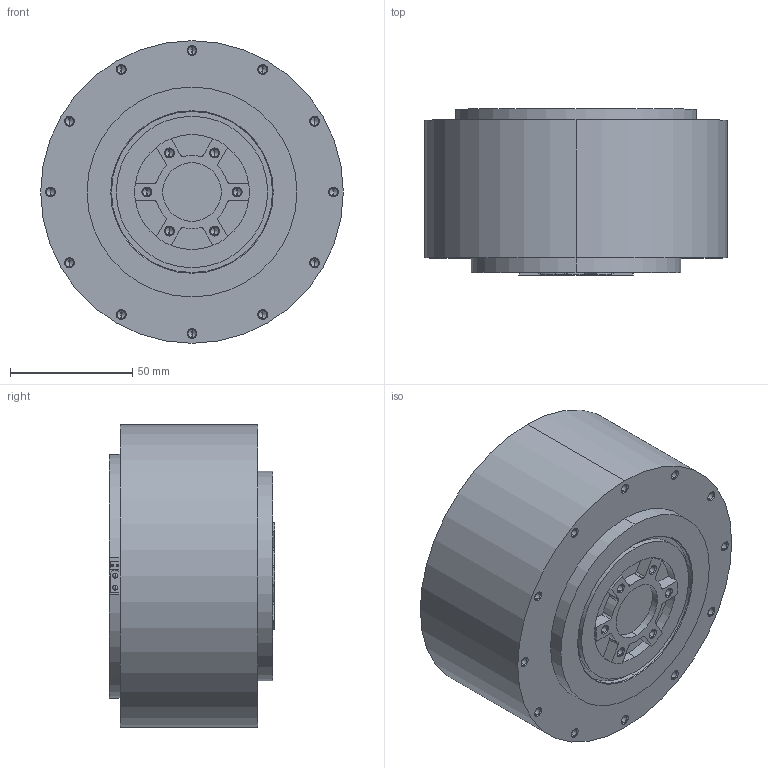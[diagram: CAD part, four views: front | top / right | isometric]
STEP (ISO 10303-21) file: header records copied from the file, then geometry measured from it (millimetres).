
FILE_DESCRIPTION (( 'STEP AP203' ), '1' );
FILE_NAME ('RMBOT124-25-P1-200Nm-2PC(总68-输入100).STEP', '2025-06-18T07:52:08', ( 'China' ), ( 'Microsoft' ), 'SwSTEP 2.0', 'SolidWorks 2022', '' );
FILE_SCHEMA (( 'CONFIG_CONTROL_DESIGN' ));
Length unit declared in the file: millimetre
Products named in the file (1): RMBOT124-25-P1-200Nm-2PC(总68-输入100)
Bounding box: 124 x 68 x 124 mm (x, y, z)
Volume: 745107.6 mm3; surface area: 55405.8 mm2
Topology: 1 solids, 1 shells, 297 faces, 741 edges, 416 vertices
Faces by surface type: cylinder 119, cone 114, plane 48, sphere 16
Entity records: 8228 total; most frequent: DIRECTION 1561, CARTESIAN_POINT 1351, ORIENTED_EDGE 1306, EDGE_CURVE 653, AXIS2_PLACEMENT_3D 610, VERTEX_POINT 400, LINE 341, VECTOR 341
